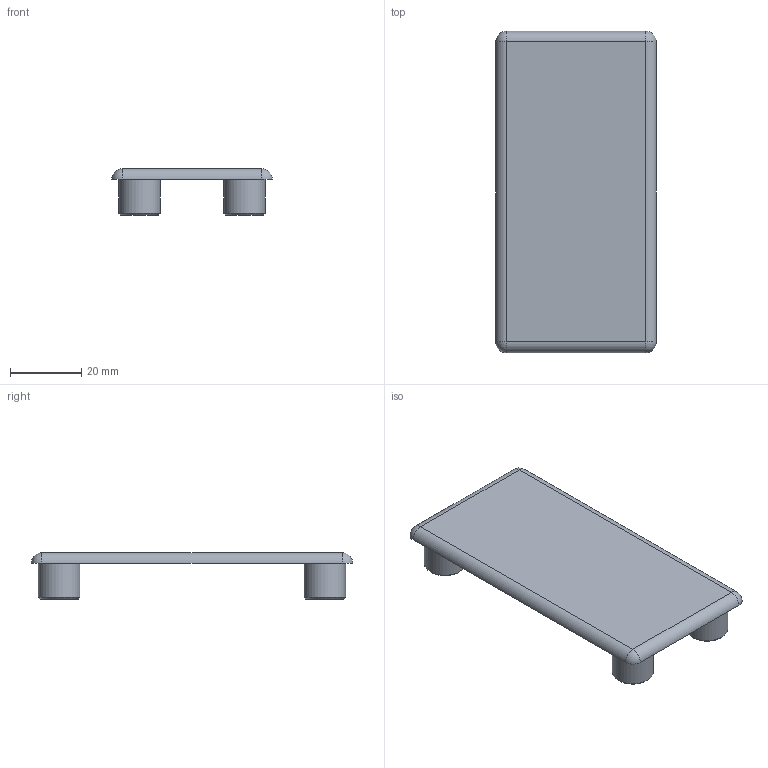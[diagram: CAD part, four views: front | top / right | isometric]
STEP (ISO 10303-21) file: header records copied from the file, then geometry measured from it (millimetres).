
FILE_DESCRIPTION (( 'STEP AP214' ), '1' );
FILE_NAME ('SL01007.step', '2024-12-03T16:30:08', ( '' ), ( '' ), 'SwSTEP 2.0', 'SolidWorks 2023', '' );
FILE_SCHEMA (( 'AUTOMOTIVE_DESIGN' ));
Length unit declared in the file: millimetre
Products named in the file (1): SL01007
Bounding box: 45 x 90 x 13 mm (x, y, z)
Volume: 12691.4 mm3; surface area: 11204.7 mm2
Topology: 1 solids, 1 shells, 32 faces, 63 edges, 38 vertices
Faces by surface type: cylinder 13, plane 11, sphere 4, cone 4
Full cylindrical faces by diameter (mm): 1 x1, 10 x4, 11.6 x4
Entity records: 727 total; most frequent: DIRECTION 142, CARTESIAN_POINT 109, ORIENTED_EDGE 84, AXIS2_PLACEMENT_3D 67, EDGE_LOOP 54, EDGE_CURVE 42, FACE_OUTER_BOUND 41, CIRCLE 34
